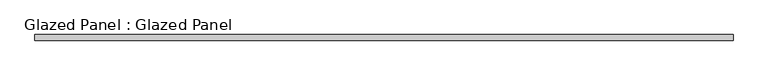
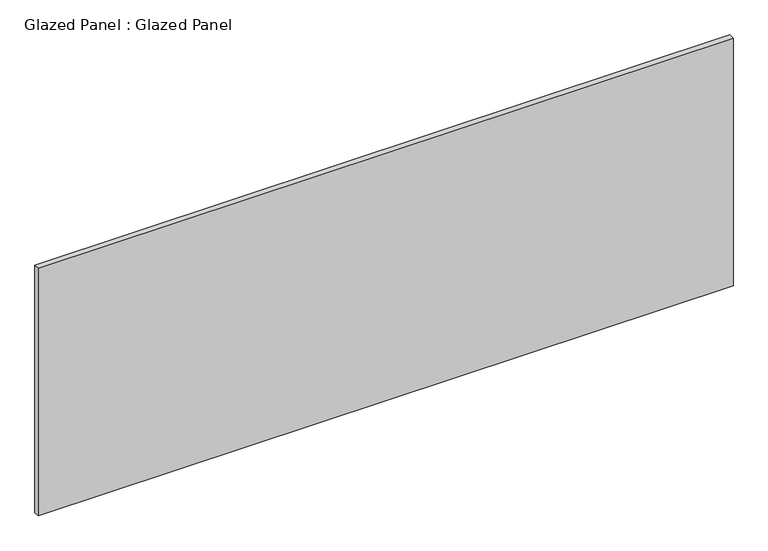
"""IFC4 building model written with IfcOpenShell, lengths in millimetres: plate geometry, Glazed Panel : Glazed Panel."""

import ifcopenshell
import ifcopenshell.guid

model = None  # the IFC model being written
_history = None  # IfcOwnerHistory: only IFC2X3 demands one
_inside = {}  # id of a spatial element -> (the spatial element, [elements in it])
_under = {}  # id of a project, library or spatial element -> (it, [spatial elements below it])
_declared = {}  # id of a project -> (the project, [libraries it declares])
_typed = {}  # id of a type object -> (the type object, [elements of that type])
_made_of = {}  # id of a material, layer set ... -> (it, [elements and type objects made of it])


def new_model(schema):
    """Start an empty IFC model of exactly this schema.

    Asked for "IFC4X3", IfcOpenShell would pick the latest addendum, in which some entities
    have other attributes; the version numbers below select the first issue.
    IFC2X3 requires an IfcOwnerHistory on every rooted entity: one is made here for all.
    """
    global model, _history
    if schema == "IFC4X3":
        model = ifcopenshell.file(schema_version=(4, 3, 0, 0))
    else:
        model = ifcopenshell.file(schema=schema)
    _inside.clear()
    _under.clear()
    _declared.clear()
    _typed.clear()
    _made_of.clear()
    _history = None
    if model.schema == "IFC2X3":
        org = make("IfcOrganization", Name="unknown")
        user = make(
            "IfcPersonAndOrganization",
            ThePerson=make("IfcPerson", FamilyName="unknown"),
            TheOrganization=org,
        )
        app = make(
            "IfcApplication",
            ApplicationDeveloper=org,
            Version="unknown",
            ApplicationFullName="unknown",
            ApplicationIdentifier="unknown",
        )
        _history = make(
            "IfcOwnerHistory",
            OwningUser=user,
            OwningApplication=app,
            ChangeAction="ADDED",
            CreationDate=0,
        )
    return model


def make(cls, **values):
    """One entity of the class cls with the attributes given. An attribute that is None is left unset."""
    return model.create_entity(
        cls, **{name: value for name, value in values.items() if value is not None}
    )


def rooted(cls, **values):
    """An entity with a GlobalId (a new one), such as an element, a storey or a relation."""
    return make(cls, GlobalId=ifcopenshell.guid.new(), OwnerHistory=_history, **values)


def si_unit(unit_type, name, prefix=None):
    """IfcSIUnit, for example si_unit("LENGTHUNIT", "METRE", prefix="MILLI")."""
    return make("IfcSIUnit", UnitType=unit_type, Prefix=prefix, Name=name)


def assignment(units):
    """IfcUnitAssignment: the units of a project."""
    return None if units is None else make("IfcUnitAssignment", Units=units)


def point(xyz):
    """IfcCartesianPoint."""
    return None if xyz is None else make("IfcCartesianPoint", Coordinates=xyz)


def direction(xyz):
    """IfcDirection."""
    return None if xyz is None else make("IfcDirection", DirectionRatios=xyz)


def frame(location, z_axis=None, x_axis=None):
    """IfcAxis2Placement3D, a coordinate frame: its origin and axes. An axis left out is left unset."""
    return make(
        "IfcAxis2Placement3D",
        Location=point(location),
        Axis=direction(z_axis),
        RefDirection=direction(x_axis),
    )


def origin():
    """The frame at (0, 0, 0) with its axes left unset."""
    return frame((0.0, 0.0, 0.0))


def origin_with_axes():
    """The frame at (0, 0, 0) with the z axis (0, 0, 1) and the x axis (1, 0, 0) written out."""
    return frame((0.0, 0.0, 0.0), z_axis=(0.0, 0.0, 1.0), x_axis=(1.0, 0.0, 0.0))


def place(relative_to, where):
    """IfcLocalPlacement: puts the frame where relative to a parent placement (None: the world)."""
    return make(
        "IfcLocalPlacement", PlacementRelTo=relative_to, RelativePlacement=where
    )


def context(
    kind, dimensions, precision=None, world=None, true_north=None, identifier=None
):
    """IfcGeometricRepresentationContext, for example the 3D "Model" context."""
    return make(
        "IfcGeometricRepresentationContext",
        ContextIdentifier=identifier,
        ContextType=kind,
        CoordinateSpaceDimension=dimensions,
        Precision=precision,
        WorldCoordinateSystem=world,
        TrueNorth=true_north,
    )


def project(units=None, contexts=None):
    """IfcProject with its units and contexts."""
    return rooted(
        "IfcProject",
        Name="project",
        RepresentationContexts=contexts,
        UnitsInContext=assignment(units),
    )


def spatial(cls, under=None, at=None, **own):
    """A site, building, storey or space (cls), placed at a placement, below another one or the project."""
    s = rooted(cls, ObjectPlacement=at, **own)
    if under is not None:
        _under.setdefault(under.id(), (under, []))[1].append(s)
    return s


def polyline(points):
    """IfcPolyline through the points."""
    return make("IfcPolyline", Points=[point(p) for p in points])


def outline(outer, holes=None, kind="AREA"):
    """IfcArbitraryClosedProfileDef: a profile drawn as a closed curve; with holes, ...WithVoids."""
    if holes is None:
        return make("IfcArbitraryClosedProfileDef", ProfileType=kind, OuterCurve=outer)
    return make(
        "IfcArbitraryProfileDefWithVoids",
        ProfileType=kind,
        OuterCurve=outer,
        InnerCurves=holes,
    )


def extrude(swept, where, along, depth):
    """IfcExtrudedAreaSolid: the profile swept, set in the frame where, extruded along a direction by depth."""
    return make(
        "IfcExtrudedAreaSolid",
        SweptArea=swept,
        Position=where,
        ExtrudedDirection=direction(along),
        Depth=depth,
    )


def shape(context_of_items, identifier, shape_type, items):
    """IfcShapeRepresentation: the items that make up one representation, for example the "Body"."""
    return make(
        "IfcShapeRepresentation",
        ContextOfItems=context_of_items,
        RepresentationIdentifier=identifier,
        RepresentationType=shape_type,
        Items=items,
    )


def source(mapping_origin, context_of_items, identifier, shape_type, items):
    """IfcRepresentationMap: a shape defined once, which mapped items show again and again."""
    return make(
        "IfcRepresentationMap",
        MappingOrigin=mapping_origin,
        MappedRepresentation=shape(context_of_items, identifier, shape_type, items),
    )


def transform(
    local_origin,
    x_axis=None,
    y_axis=None,
    z_axis=None,
    scale=None,
    scale2=None,
    scale3=None,
    uniform=True,
):
    """IfcCartesianTransformationOperator3D, or its non-uniform kind. x_axis, y_axis, z_axis: its Axis1, 2, 3."""
    if uniform:
        return make(
            "IfcCartesianTransformationOperator3D",
            Axis1=direction(x_axis),
            Axis2=direction(y_axis),
            LocalOrigin=point(local_origin),
            Scale=scale,
            Axis3=direction(z_axis),
        )
    return make(
        "IfcCartesianTransformationOperator3DnonUniform",
        Axis1=direction(x_axis),
        Axis2=direction(y_axis),
        LocalOrigin=point(local_origin),
        Scale=scale,
        Axis3=direction(z_axis),
        Scale2=scale2,
        Scale3=scale3,
    )


def mapped(mapping_source, mapping_target):
    """IfcMappedItem: shows the shape of a source again, moved by a transform."""
    return make(
        "IfcMappedItem", MappingSource=mapping_source, MappingTarget=mapping_target
    )


def made_of(thing, what):
    """Note that an element or type object is made of a material, layer set ...; save() writes the relation."""
    if what is not None:
        _made_of.setdefault(what.id(), (what, []))[1].append(thing)
    return thing


def element(
    cls,
    number,
    at=None,
    inside=None,
    cuts=None,
    type_object=None,
    material=None,
    context=None,
    identifier="Body",
    shape_type=None,
    held_by="IfcProductDefinitionShape",
    body=None,
    shapes=None,
    **own,
):
    """One element of the class cls, such as IfcWall. Its Tag is "e" and its number.

    at: its placement. inside: the storey or other place that contains it. cuts: it is an
    opening in that element (IfcRelVoidsElement). A single representation is given by context,
    identifier, shape_type and body (its items); several are given by shapes. held_by: the class
    of the entity that holds the representations. save() writes the other relations.
    """
    e = rooted(cls, Tag="e%d" % number, ObjectPlacement=at, **own)
    if body is not None:
        shapes = [shape(context, identifier, shape_type, body)]
    if shapes is not None:
        e.Representation = make(held_by, Representations=shapes)
    if inside is not None:
        _inside.setdefault(inside.id(), (inside, []))[1].append(e)
    if cuts is not None:
        rooted(
            "IfcRelVoidsElement", RelatingBuildingElement=cuts, RelatedOpeningElement=e
        )
    if type_object is not None:
        _typed.setdefault(type_object.id(), (type_object, []))[1].append(e)
    return made_of(e, material)


def aggregate(whole, parts):
    """IfcRelAggregates: a whole, such as a stair, and the parts it consists of."""
    return rooted("IfcRelAggregates", RelatingObject=whole, RelatedObjects=parts)


def save(model, path):
    """Write the relations noted so far, then the file.

    IfcRelAggregates (storeys below a building ...), IfcRelContainedInSpatialStructure (elements
    in a storey), IfcRelDefinesByType, IfcRelAssociatesMaterial and IfcRelDeclares: one each for
    every whole, place, type object, material and project.
    """
    for whole, parts in _under.values():
        aggregate(whole, parts)
    for where, things in _inside.values():
        rooted(
            "IfcRelContainedInSpatialStructure",
            RelatedElements=things,
            RelatingStructure=where,
        )
    for kind, things in _typed.values():
        rooted("IfcRelDefinesByType", RelatedObjects=things, RelatingType=kind)
    for what, things in _made_of.values():
        rooted("IfcRelAssociatesMaterial", RelatedObjects=things, RelatingMaterial=what)
    for by, libraries in _declared.values():
        rooted("IfcRelDeclares", RelatingContext=by, RelatedDefinitions=libraries)
    model.write(path)


def glazed_panel_glazed_panel_f40463b3(model_context):
    return source(origin(), model_context, "Body", "SweptSolid", [
        extrude(outline(polyline([(1576.4558333, 38.1), (-1576.4558333, 38.1), (-1576.4558333, 63.5), (1576.4558333, 63.5), (1576.4558333, 38.1)])), origin_with_axes(), (0.0, 0.0, 1.0), 1187.45),
    ])


if __name__ == "__main__":
    model = new_model("IFC4")
    model_context = context("Model", 3, world=origin())
    ifc_project = project(units=[si_unit("LENGTHUNIT", "METRE", prefix="MILLI")], contexts=[model_context])
    site = spatial("IfcSite", under=ifc_project)
    building = spatial("IfcBuilding", under=site)
    placement = place(None, origin())
    glazed_panel_glazed_panel_shape = glazed_panel_glazed_panel_f40463b3(model_context)
    element("IfcPlate", 1, ObjectType="Glazed Panel : Glazed Panel", at=placement, inside=building, context=model_context, shape_type="MappedRepresentation", body=[
        mapped(glazed_panel_glazed_panel_shape, transform((0.0, 0.0, 0.0), x_axis=(1.0, 0.0, 0.0), y_axis=(0.0, 1.0, 0.0), z_axis=(0.0, 0.0, 1.0))),
    ])
    save(model, "model.ifc")
